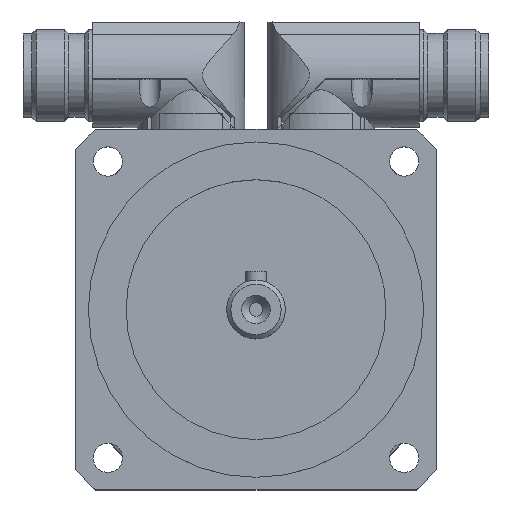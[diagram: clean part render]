
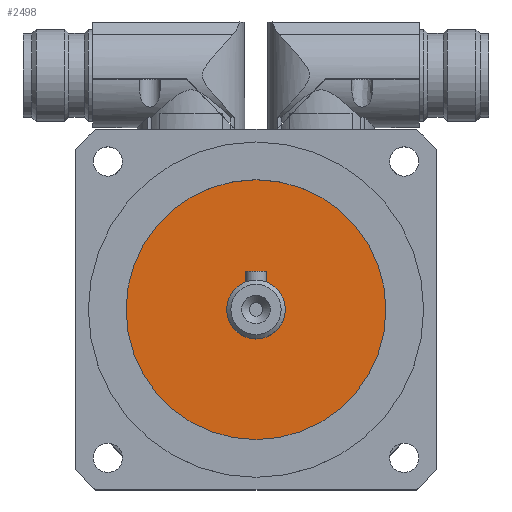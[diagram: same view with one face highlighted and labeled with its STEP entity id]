
A CAD part, top view. The second image highlights one B-rep face of the part: STEP entity #2498.
In plain terms, the highlighted planar face has unit normal (0, 0, 1).
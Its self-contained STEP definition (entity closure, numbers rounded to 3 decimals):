
#202=PLANE('',#2656);
#262=CIRCLE('',#2643,7.);
#271=CIRCLE('',#2654,31.);
#744=VERTEX_POINT('',#3828);
#753=VERTEX_POINT('',#3920);
#1035=EDGE_CURVE('',#744,#744,#262,.T.);
#1044=EDGE_CURVE('',#753,#753,#271,.T.);
#1423=ORIENTED_EDGE('',*,*,#1044,.T.);
#1424=ORIENTED_EDGE('',*,*,#1035,.T.);
#2117=EDGE_LOOP('',(#1423));
#2118=EDGE_LOOP('',(#1424));
#2313=FACE_BOUND('',#2117,.T.);
#2314=FACE_BOUND('',#2118,.T.);
#2498=ADVANCED_FACE('',(#2313,#2314),#202,.F.);
#2643=AXIS2_PLACEMENT_3D('',#3827,#2945,#2946);
#2654=AXIS2_PLACEMENT_3D('',#3919,#2966,#2967);
#2656=AXIS2_PLACEMENT_3D('',#3923,#2970,$);
#2945=DIRECTION('',(0.,0.,-1.));
#2946=DIRECTION('',(-7.,0.,0.));
#2966=DIRECTION('',(0.,0.,1.));
#2967=DIRECTION('',(-31.,0.,0.));
#2970=DIRECTION('',(0.,0.,-1.));
#3827=CARTESIAN_POINT('',(0.,0.,95.5));
#3828=CARTESIAN_POINT('',(7.,0.,95.5));
#3919=CARTESIAN_POINT('',(0.,0.,95.5));
#3920=CARTESIAN_POINT('',(31.,0.,95.5));
#3923=CARTESIAN_POINT('',(0.,0.,95.5));
